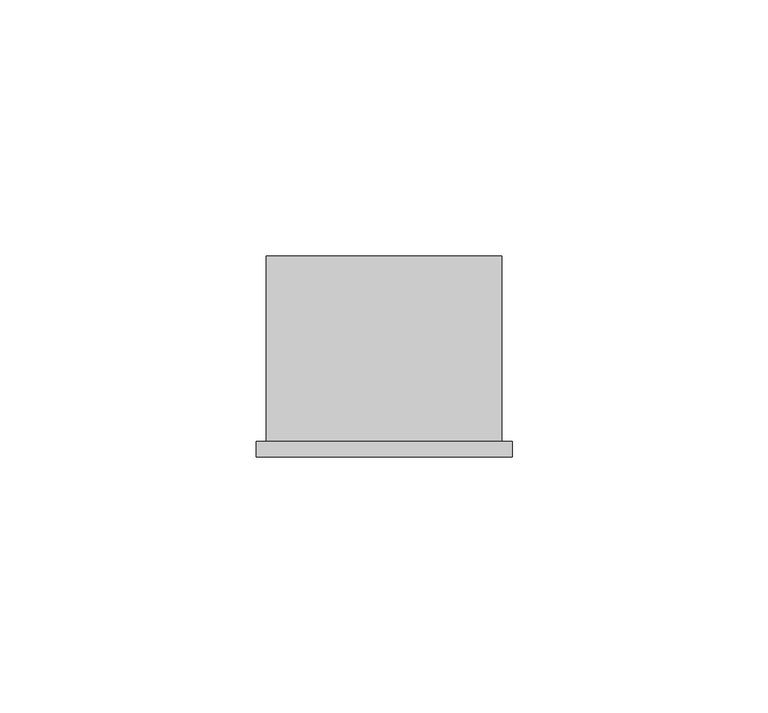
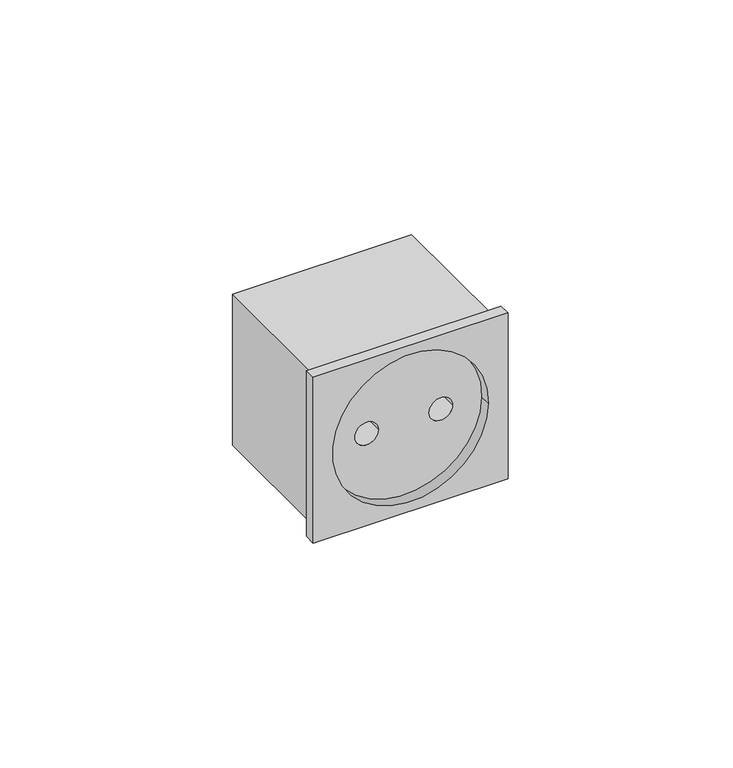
"""IFC4 building model written with IfcOpenShell, lengths in millimetres: proxy geometry, КНС_СиловыеЭлектрическиеРозеткиШтекерныеСоШторками_DKC : Белый."""

from ifc_helpers import new_model, si_unit, frame, origin, place, context, project, spatial, polyline, circle_curve, source, transform, mapped, element, save
from ifc_brep_helpers import plane_surface, revolved_surface, advanced_brep


def electrical_fixtures_a180ba35(model_context):
    return source(origin(), model_context, "Body", "AdvancedBrep", [
        advanced_brep(
        [(19.9967242, -36.3, -0.3619702), (-9.1331197, -36.3, 17.7928672), (12.5564586, -36.3, 0.0), (6.4897194, -36.3, 0.0), (-6.4897194, -36.3, 0.0), (-12.5564586, -36.3, 0.0), (23.0, 0.0, 20.5), (23.0, 0.0, -20.5), (-23.0, 0.0, -20.5), (-23.0, 0.0, 20.5), (-23.0, -36.3, 20.5), (23.0, -36.3, 20.5), (-23.0, -36.3, -20.5), (23.0, -36.3, -20.5), (6.4897194, -10.5732864, 0.0), (12.5564586, -10.5732864, 0.0), (-12.5564586, -10.5732864, 0.0), (-6.4897194, -10.5732864, 0.0), (25.0, -39.3, 22.5), (-25.0, -39.3, 22.5), (-25.0, -39.3, -22.5), (25.0, -39.3, -22.5), (-9.1331197, -39.3, 17.7928672), (19.9967242, -39.3, -0.3619702), (25.0, -36.3, 22.5), (25.0, -36.3, -22.5), (-25.0, -36.3, -22.5), (-25.0, -36.3, 22.5)],
        [
            (0, 1, circle_curve(frame((0.0, -36.3, 0.0), z_axis=(0.0, -1.0, 0.0), x_axis=(1.0, 0.0, 0.0)), 20.0)),
            (1, 0, circle_curve(frame((0.0, -36.3, 0.0), z_axis=(0.0, -1.0, 0.0), x_axis=(1.0, 0.0, 0.0)), 20.0)),
            (2, 3, circle_curve(frame((9.523089, -36.3, 0.0), z_axis=(0.0, 1.0, 0.0), x_axis=(1.0, 0.0, 0.0)), 3.0333696)),
            (3, 2, circle_curve(frame((9.523089, -36.3, 0.0), z_axis=(0.0, 1.0, 0.0), x_axis=(1.0, 0.0, 0.0)), 3.0333696)),
            (4, 5, circle_curve(frame((-9.523089, -36.3, 0.0), z_axis=(0.0, 1.0, 0.0), x_axis=(1.0, 0.0, 0.0)), 3.0333696)),
            (5, 4, circle_curve(frame((-9.523089, -36.3, 0.0), z_axis=(0.0, 1.0, 0.0), x_axis=(1.0, 0.0, 0.0)), 3.0333696)),
            (6, 7),
            (7, 8),
            (8, 9),
            (9, 6),
            (9, 10),
            (10, 11),
            (11, 6),
            (8, 12),
            (12, 10),
            (7, 13),
            (13, 12),
            (11, 13),
            (14, 15, circle_curve(frame((9.523089, -10.5732864, 0.0), z_axis=(0.0, -1.0, 0.0), x_axis=(1.0, 0.0, 0.0)), 3.0333696)),
            (15, 14, circle_curve(frame((9.523089, -10.5732864, 0.0), z_axis=(0.0, -1.0, 0.0), x_axis=(1.0, 0.0, 0.0)), 3.0333696)),
            (16, 17, circle_curve(frame((-9.523089, -10.5732864, 0.0), z_axis=(0.0, -1.0, 0.0), x_axis=(1.0, 0.0, 0.0)), 3.0333696)),
            (17, 16, circle_curve(frame((-9.523089, -10.5732864, 0.0), z_axis=(0.0, -1.0, 0.0), x_axis=(1.0, 0.0, 0.0)), 3.0333696)),
            (14, 3),
            (2, 15),
            (16, 5),
            (4, 17),
            (18, 19),
            (19, 20),
            (20, 21),
            (21, 18),
            (22, 23, circle_curve(frame((0.0, -39.3, 0.0), z_axis=(0.0, 1.0, 0.0), x_axis=(1.0, 0.0, 0.0)), 20.0)),
            (23, 22, circle_curve(frame((0.0, -39.3, 0.0), z_axis=(0.0, 1.0, 0.0), x_axis=(1.0, 0.0, 0.0)), 20.0)),
            (24, 25),
            (25, 26),
            (26, 27),
            (27, 24),
            (18, 24),
            (27, 19),
            (26, 20),
            (25, 21),
            (22, 1),
            (0, 23),
        ],
        [
            plane_surface(frame((-23.0, -36.3, 20.5), z_axis=(0.0, -1.0, 0.0), x_axis=(-1.0, 0.0, 0.0))),
            plane_surface(frame((-23.0, 0.0, 20.5), z_axis=(0.0, 1.0, 0.0), x_axis=(1.0, 0.0, 0.0))),
            plane_surface(frame((23.0, -36.3, 20.5), z_axis=(0.0, 0.0, 1.0), x_axis=(0.0, 1.0, 0.0))),
            plane_surface(frame((-23.0, -36.3, 20.5), z_axis=(-1.0, 0.0, 0.0), x_axis=(0.0, 1.0, 0.0))),
            plane_surface(frame((-23.0, -36.3, -20.5), z_axis=(0.0, 0.0, -1.0), x_axis=(0.0, 1.0, 0.0))),
            plane_surface(frame((23.0, -36.3, -20.5), z_axis=(1.0, 0.0, 0.0), x_axis=(0.0, 1.0, 0.0))),
            plane_surface(frame((12.5564586, -10.5732864, 0.0), z_axis=(0.0, -1.0, 0.0), x_axis=(0.0, 0.0, -1.0))),
            revolved_surface(polyline([(12.556458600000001, -36.3, 0.0), (12.556458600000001, -10.5732864, 0.0)]), (9.523089, -10.5732864, 0.0), (0.0, -1.0, 0.0)),
            revolved_surface(polyline([(-6.4897194, -36.3, 0.0), (-6.4897194, -10.5732864, 0.0)]), (-9.523089, 0.0, 0.0), (0.0, -1.0, 0.0)),
            plane_surface(frame((-25.0, -39.3, 22.5), z_axis=(0.0, -1.0, 0.0), x_axis=(-1.0, 0.0, 0.0))),
            plane_surface(frame((-25.0, -36.3, 22.5), z_axis=(0.0, 1.0, 0.0), x_axis=(1.0, 0.0, 0.0))),
            plane_surface(frame((25.0, -39.3, 22.5), z_axis=(0.0, 0.0, 1.0), x_axis=(0.0, 1.0, 0.0))),
            plane_surface(frame((-25.0, -39.3, 22.5), z_axis=(-1.0, 0.0, 0.0), x_axis=(0.0, 1.0, 0.0))),
            plane_surface(frame((-25.0, -39.3, -22.5), z_axis=(0.0, 0.0, -1.0), x_axis=(0.0, 1.0, 0.0))),
            plane_surface(frame((25.0, -39.3, -22.5), z_axis=(1.0, 0.0, 0.0), x_axis=(0.0, 1.0, 0.0))),
            revolved_surface(polyline([(20.0, -36.3, 0.0), (20.0, -39.3, 0.0)]), (0.0, 0.0, 0.0), (0.0, 1.0, 0.0)),
        ],
        [
            (0, [[1, 2], [3, 4], [5, 6]]),
            (1, [[7, 8, 9, 10]]),
            (2, [[-10, 11, 12, 13]]),
            (3, [[-9, 14, 15, -11]]),
            (4, [[-8, 16, 17, -14]]),
            (5, [[-7, -13, 18, -16]]),
            (6, [[19, 20]]),
            (6, [[21, 22]]),
            (7, [[-19, 23, -3, 24]]),
            (7, [[-20, -24, -4, -23]]),
            (8, [[-21, 25, -5, 26]]),
            (8, [[-22, -26, -6, -25]]),
            (9, [[27, 28, 29, 30], [31, 32]]),
            (10, [[33, 34, 35, 36], [-12, -15, -17, -18]]),
            (11, [[-27, 37, -36, 38]]),
            (12, [[-28, -38, -35, 39]]),
            (13, [[-29, -39, -34, 40]]),
            (14, [[-30, -40, -33, -37]]),
            (15, [[-31, 41, -1, 42]]),
            (15, [[-32, -42, -2, -41]]),
        ],
    ),
    ])


if __name__ == "__main__":
    model = new_model("IFC4")
    model_context = context("Model", 3, world=origin())
    ifc_project = project(units=[si_unit("LENGTHUNIT", "METRE", prefix="MILLI")], contexts=[model_context])
    site = spatial("IfcSite", under=ifc_project)
    building = spatial("IfcBuilding", under=site)
    placement = place(None, origin())
    electrical_fixtures_shape = electrical_fixtures_a180ba35(model_context)
    element("IfcBuildingElementProxy", 1, Name="КНС_СиловыеЭлектрическиеРозеткиШтекерныеСоШторками_DKC : Белый", ObjectType="КНС_СиловыеЭлектрическиеРозеткиШтекерныеСоШторками_DKC : Белый", at=placement, inside=building, context=model_context, shape_type="MappedRepresentation", body=[
        mapped(electrical_fixtures_shape, transform((0.0, 0.0, 0.0), x_axis=(1.0, 0.0, 0.0), y_axis=(0.0, 1.0, 0.0), z_axis=(0.0, 0.0, 1.0))),
    ])
    save(model, "model.ifc")
